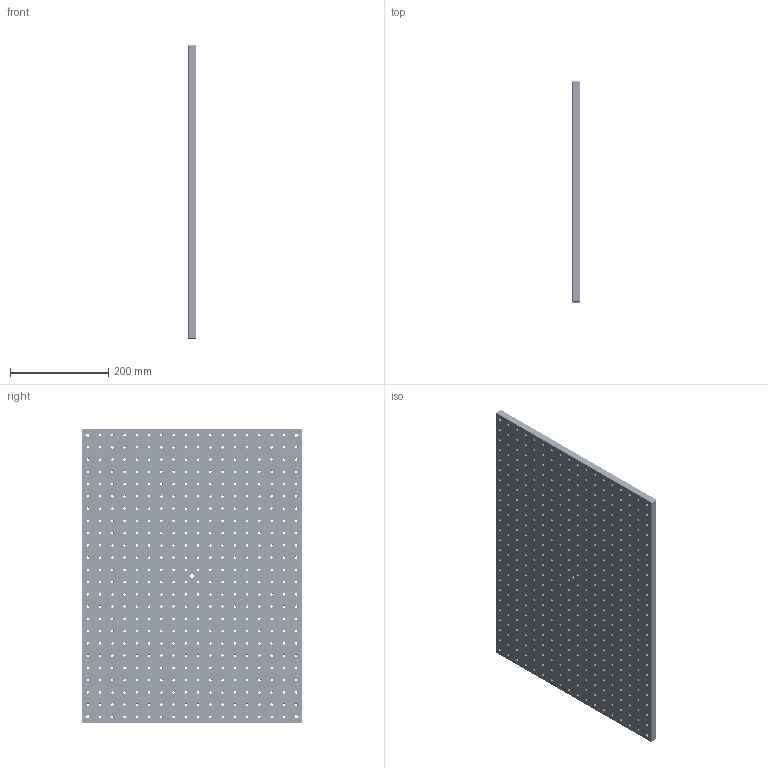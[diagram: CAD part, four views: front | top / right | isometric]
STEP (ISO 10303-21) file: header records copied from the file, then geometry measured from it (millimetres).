
FILE_DESCRIPTION(/* description */ (''),/* implementation_level */ '2;1');
FILE_NAME(/* name */ 'U:\KONSTRUKTORIAI\DOKUMENTACIJA\1\1B-A\Inventor\1B-A-45-60-015\step\1B-A-45-60-015.stp',/* time_stamp */ '2016-11-24T10:58:33+02:00',/* author */ ('dsgn31'),/* organization */ (''),/* preprocessor_version */ 'ST-DEVELOPER v15.2',/* originating_system */ 'Autodesk Inventor 2014',/* authorisation */ '');
FILE_SCHEMA (('AUTOMOTIVE_DESIGN { 1 0 10303 214 3 1 1 }'));
Length unit declared in the file: millimetre
Products named in the file (1): 1B-A-45-60-015.01
Bounding box: 15 x 450 x 600 mm (x, y, z)
Volume: 3920305.3 mm3; surface area: 651422.8 mm2
Topology: 1 solids, 1 shells, 1317 faces, 3494 edges, 2184 vertices
Faces by surface type: cone 856, cylinder 438, plane 23
Full cylindrical faces by diameter (mm): 4.917 x428, 6.5 x5, 11 x5
Entity records: 32543 total; most frequent: DIRECTION 6140, CARTESIAN_POINT 4846, ORIENTED_EDGE 3544, EDGE_LOOP 3482, AXIS2_PLACEMENT_3D 3050, FACE_BOUND 2167, EDGE_CURVE 1772, VERTEX_POINT 1756
